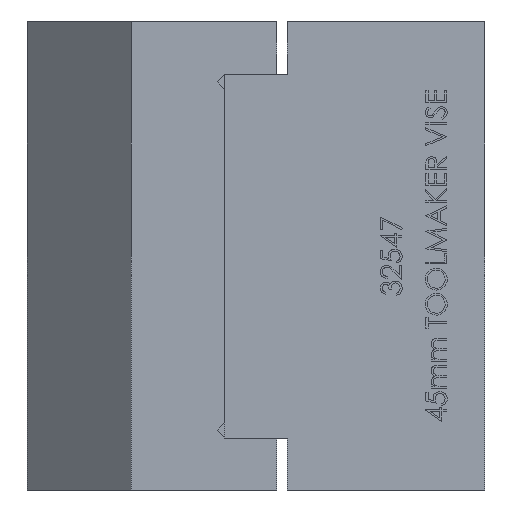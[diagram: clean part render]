
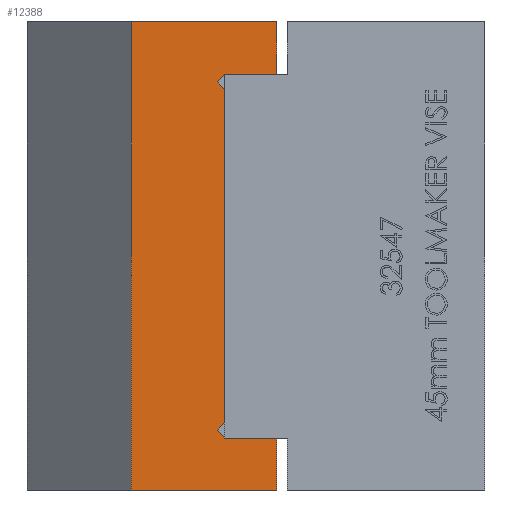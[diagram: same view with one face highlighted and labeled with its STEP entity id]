
A CAD part, left-side view. The second image highlights one B-rep face of the part: STEP entity #12388.
In plain terms, the highlighted planar face has unit normal (-1, 0, 0).
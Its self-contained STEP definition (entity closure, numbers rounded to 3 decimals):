
#73 = VERTEX_POINT ( 'NONE', #12108 ) ;
#288 = ORIENTED_EDGE ( 'NONE', *, *, #12375, .F. ) ;
#452 = LINE ( 'NONE', #14764, #12710 ) ;
#721 = ORIENTED_EDGE ( 'NONE', *, *, #12487, .F. ) ;
#939 = DIRECTION ( 'NONE',  ( 0., -1., 0. ) ) ;
#1096 = VERTEX_POINT ( 'NONE', #14521 ) ;
#1146 = VERTEX_POINT ( 'NONE', #13070 ) ;
#1383 = EDGE_CURVE ( 'NONE', #3984, #3508, #2640, .T. ) ;
#1780 = LINE ( 'NONE', #15813, #6068 ) ;
#2640 = LINE ( 'NONE', #7447, #11175 ) ;
#2837 = VERTEX_POINT ( 'NONE', #13831 ) ;
#3238 = VECTOR ( 'NONE', #8161, 1000. ) ;
#3384 = CARTESIAN_POINT ( 'NONE',  ( -110., 20., 17.5 ) ) ;
#3508 = VERTEX_POINT ( 'NONE', #16552 ) ;
#3775 = EDGE_CURVE ( 'NONE', #17095, #2837, #12981, .T. ) ;
#3984 = VERTEX_POINT ( 'NONE', #5643 ) ;
#4229 = FACE_OUTER_BOUND ( 'NONE', #5933, .T. ) ;
#4324 = CARTESIAN_POINT ( 'NONE',  ( -110., 25., 17.5 ) ) ;
#4769 = EDGE_CURVE ( 'NONE', #13297, #16491, #16160, .T. ) ;
#4974 = DIRECTION ( 'NONE',  ( 0., 0., -1. ) ) ;
#5014 = VECTOR ( 'NONE', #12948, 1000. ) ;
#5157 = ORIENTED_EDGE ( 'NONE', *, *, #6991, .F. ) ;
#5406 = CARTESIAN_POINT ( 'NONE',  ( -110., 20., -22.5 ) ) ;
#5643 = CARTESIAN_POINT ( 'NONE',  ( -110., 25., -17.5 ) ) ;
#5834 = LINE ( 'NONE', #19958, #14291 ) ;
#5933 = EDGE_LOOP ( 'NONE', ( #6400, #288, #5157, #9546, #10148, #19596, #6912, #17996, #721, #6155, #10700, #17173 ) ) ;
#6068 = VECTOR ( 'NONE', #11436, 1000. ) ;
#6155 = ORIENTED_EDGE ( 'NONE', *, *, #11539, .T. ) ;
#6250 = DIRECTION ( 'NONE',  ( 0., -1., 0. ) ) ;
#6400 = ORIENTED_EDGE ( 'NONE', *, *, #1383, .F. ) ;
#6912 = ORIENTED_EDGE ( 'NONE', *, *, #18970, .F. ) ;
#6991 = EDGE_CURVE ( 'NONE', #8410, #73, #5834, .T. ) ;
#7030 = DIRECTION ( 'NONE',  ( 0., -1., 0. ) ) ;
#7447 = CARTESIAN_POINT ( 'NONE',  ( -110., 20., -17.5 ) ) ;
#7543 = DIRECTION ( 'NONE',  ( 0., 0., -1. ) ) ;
#7795 = DIRECTION ( 'NONE',  ( 0., -0.707, -0.707 ) ) ;
#8021 = CARTESIAN_POINT ( 'NONE',  ( -110., 25., 17.5 ) ) ;
#8103 = DIRECTION ( 'NONE',  ( 0., 0.707, -0.707 ) ) ;
#8161 = DIRECTION ( 'NONE',  ( 0., 0., -1. ) ) ;
#8410 = VERTEX_POINT ( 'NONE', #9370 ) ;
#8510 = DIRECTION ( 'NONE',  ( 1., 0., 0. ) ) ;
#8813 = VECTOR ( 'NONE', #8103, 1000. ) ;
#9097 = CARTESIAN_POINT ( 'NONE',  ( -110., 20., 17.5 ) ) ;
#9305 = LINE ( 'NONE', #3384, #5014 ) ;
#9370 = CARTESIAN_POINT ( 'NONE',  ( -110., 25., -16. ) ) ;
#9546 = ORIENTED_EDGE ( 'NONE', *, *, #18937, .F. ) ;
#9730 = CARTESIAN_POINT ( 'NONE',  ( -110., 25., 17.5 ) ) ;
#9963 = EDGE_CURVE ( 'NONE', #3508, #16491, #15165, .T. ) ;
#10148 = ORIENTED_EDGE ( 'NONE', *, *, #10345, .F. ) ;
#10189 = VERTEX_POINT ( 'NONE', #18497 ) ;
#10345 = EDGE_CURVE ( 'NONE', #2837, #1096, #14160, .T. ) ;
#10488 = DIRECTION ( 'NONE',  ( 0., 0.707, -0.707 ) ) ;
#10700 = ORIENTED_EDGE ( 'NONE', *, *, #4769, .T. ) ;
#10963 = VECTOR ( 'NONE', #4974, 1000. ) ;
#11175 = VECTOR ( 'NONE', #6250, 1000. ) ;
#11436 = DIRECTION ( 'NONE',  ( 0., 0., -1. ) ) ;
#11470 = LINE ( 'NONE', #15410, #15194 ) ;
#11495 = DIRECTION ( 'NONE',  ( 0., -0.707, -0.707 ) ) ;
#11539 = EDGE_CURVE ( 'NONE', #10189, #13297, #11470, .T. ) ;
#12108 = CARTESIAN_POINT ( 'NONE',  ( -110., 25.75, -16.75 ) ) ;
#12375 = EDGE_CURVE ( 'NONE', #73, #3984, #452, .T. ) ;
#12388 = ADVANCED_FACE ( 'NONE', ( #4229 ), #16342, .F. ) ;
#12487 = EDGE_CURVE ( 'NONE', #10189, #1146, #18240, .T. ) ;
#12710 = VECTOR ( 'NONE', #11495, 1000. ) ;
#12824 = VERTEX_POINT ( 'NONE', #9097 ) ;
#12948 = DIRECTION ( 'NONE',  ( 0., 1., 0. ) ) ;
#12981 = LINE ( 'NONE', #8021, #8813 ) ;
#13070 = CARTESIAN_POINT ( 'NONE',  ( -110., 20., 22.5 ) ) ;
#13108 = CARTESIAN_POINT ( 'NONE',  ( -110., 20., 22.5 ) ) ;
#13297 = VERTEX_POINT ( 'NONE', #15666 ) ;
#13831 = CARTESIAN_POINT ( 'NONE',  ( -110., 25.75, 16.75 ) ) ;
#14028 = VECTOR ( 'NONE', #939, 1000. ) ;
#14160 = LINE ( 'NONE', #18839, #18359 ) ;
#14291 = VECTOR ( 'NONE', #10488, 1000. ) ;
#14506 = AXIS2_PLACEMENT_3D ( 'NONE', #13108, #8510, #19534 ) ;
#14521 = CARTESIAN_POINT ( 'NONE',  ( -110., 25., 16. ) ) ;
#14764 = CARTESIAN_POINT ( 'NONE',  ( -110., 25., -17.5 ) ) ;
#14961 = CARTESIAN_POINT ( 'NONE',  ( -110., 20., 22.5 ) ) ;
#15165 = LINE ( 'NONE', #16091, #10963 ) ;
#15194 = VECTOR ( 'NONE', #7543, 1000. ) ;
#15410 = CARTESIAN_POINT ( 'NONE',  ( -110., 34., 22.5 ) ) ;
#15666 = CARTESIAN_POINT ( 'NONE',  ( -110., 34., -22.5 ) ) ;
#15813 = CARTESIAN_POINT ( 'NONE',  ( -110., 20., 22.5 ) ) ;
#16091 = CARTESIAN_POINT ( 'NONE',  ( -110., 20., 22.5 ) ) ;
#16160 = LINE ( 'NONE', #5406, #20366 ) ;
#16342 = PLANE ( 'NONE',  #14506 ) ;
#16491 = VERTEX_POINT ( 'NONE', #17301 ) ;
#16552 = CARTESIAN_POINT ( 'NONE',  ( -110., 20., -17.5 ) ) ;
#17095 = VERTEX_POINT ( 'NONE', #4324 ) ;
#17173 = ORIENTED_EDGE ( 'NONE', *, *, #9963, .F. ) ;
#17301 = CARTESIAN_POINT ( 'NONE',  ( -110., 20., -22.5 ) ) ;
#17996 = ORIENTED_EDGE ( 'NONE', *, *, #18454, .F. ) ;
#18240 = LINE ( 'NONE', #14961, #14028 ) ;
#18359 = VECTOR ( 'NONE', #7795, 1000. ) ;
#18454 = EDGE_CURVE ( 'NONE', #1146, #12824, #1780, .T. ) ;
#18497 = CARTESIAN_POINT ( 'NONE',  ( -110., 34., 22.5 ) ) ;
#18839 = CARTESIAN_POINT ( 'NONE',  ( -110., 25.75, 16.75 ) ) ;
#18937 = EDGE_CURVE ( 'NONE', #1096, #8410, #19664, .T. ) ;
#18970 = EDGE_CURVE ( 'NONE', #12824, #17095, #9305, .T. ) ;
#19534 = DIRECTION ( 'NONE',  ( 0., 0., -1. ) ) ;
#19596 = ORIENTED_EDGE ( 'NONE', *, *, #3775, .F. ) ;
#19664 = LINE ( 'NONE', #9730, #3238 ) ;
#19958 = CARTESIAN_POINT ( 'NONE',  ( -110., 25.75, -16.75 ) ) ;
#20366 = VECTOR ( 'NONE', #7030, 1000. ) ;
